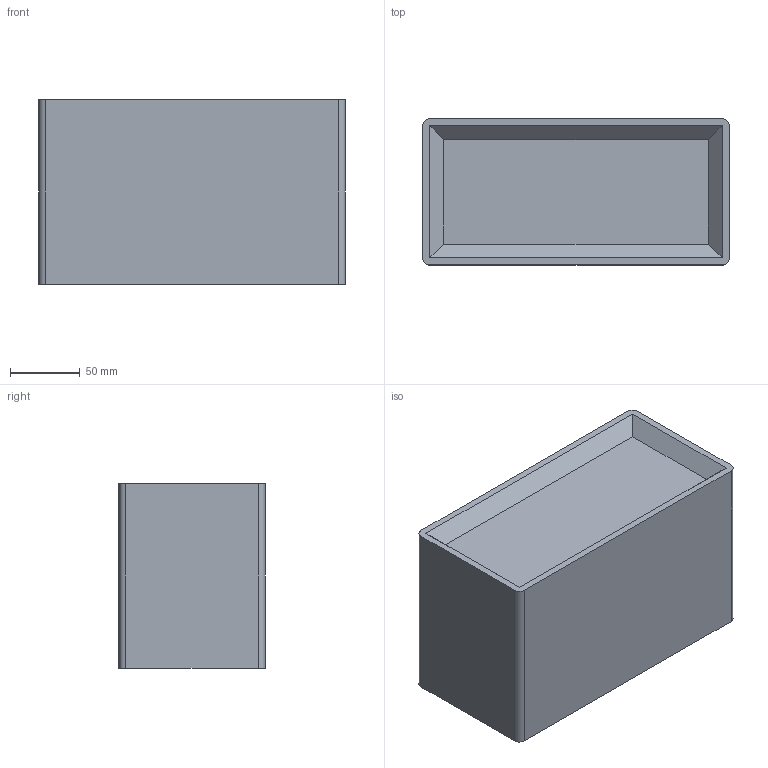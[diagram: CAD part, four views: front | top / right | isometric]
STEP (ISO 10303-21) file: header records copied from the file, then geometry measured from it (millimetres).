
FILE_DESCRIPTION(/* description */ (''),/* implementation_level */ '2;1');
FILE_NAME(/* name */ '//sgw91-nas/home/Backup/Documents/3D_Printing/My_Builds/Tissue_Box/Tissue_Box_accessory_Cover_Body.step',/* time_stamp */ '2021-11-16T14:45:15+11:00',/* author */ (''),/* organization */ (''),/* preprocessor_version */ 'ST-DEVELOPER v18.1',/* originating_system */ 'Autodesk Translation Framework v10.10.0.1391',/* authorisation */ '');
FILE_SCHEMA (('AUTOMOTIVE_DESIGN { 1 0 10303 214 3 1 1 }'));
Length unit declared in the file: millimetre
Products named in the file (1): Tissue_Box
Bounding box: 220 x 105 x 132.5 mm (x, y, z)
Volume: 288042.4 mm3; surface area: 194045.7 mm2
Topology: 1 solids, 1 shells, 25 faces, 63 edges, 42 vertices
Faces by surface type: plane 16, cylinder 8, bspline 1
Entity records: 1205 total; most frequent: CARTESIAN_POINT 552, DIRECTION 128, ORIENTED_EDGE 126, EDGE_CURVE 63, LINE 44, VECTOR 44, VERTEX_POINT 42, AXIS2_PLACEMENT_3D 42
